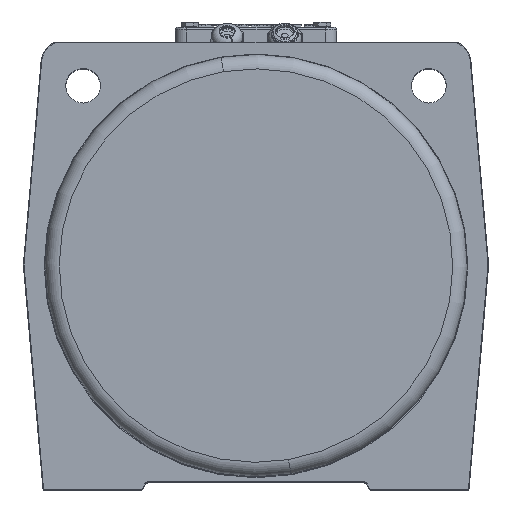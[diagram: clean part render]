
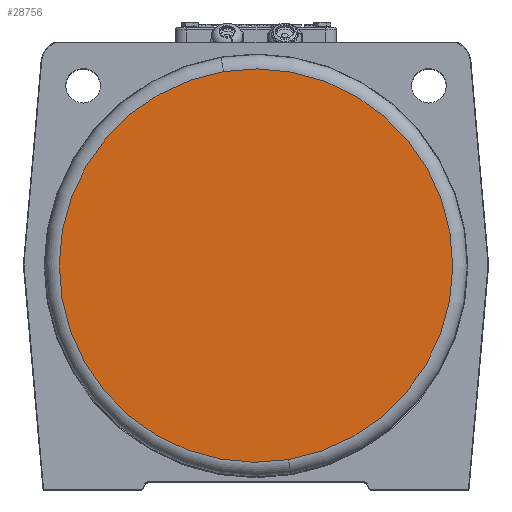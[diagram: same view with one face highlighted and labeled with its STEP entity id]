
A CAD part, top view. The second image highlights one B-rep face of the part: STEP entity #28756.
In plain terms, the highlighted planar face has unit normal (0, 0, 1) as drawn and (1, 0, 0) by its records, which use the part's own axes.
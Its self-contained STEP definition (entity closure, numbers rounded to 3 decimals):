
#1149 = CIRCLE ( 'NONE', #40367, 136.5 ) ;
#5386 = FACE_OUTER_BOUND ( 'NONE', #22586, .T. ) ;
#5985 = DIRECTION ( 'NONE',  ( -1., 0., 0. ) ) ;
#6034 = CARTESIAN_POINT ( 'NONE',  ( 120., 0., 0. ) ) ;
#8628 = DIRECTION ( 'NONE',  ( 0., -1., 0. ) ) ;
#10014 = DIRECTION ( 'NONE',  ( 0., -1., 0. ) ) ;
#14610 = ORIENTED_EDGE ( 'NONE', *, *, #25248, .F. ) ;
#21889 = PLANE ( 'NONE',  #26870 ) ;
#22586 = EDGE_LOOP ( 'NONE', ( #40592, #14610 ) ) ;
#23983 = CARTESIAN_POINT ( 'NONE',  ( 120., 0., 0. ) ) ;
#24189 = VERTEX_POINT ( 'NONE', #40067 ) ;
#25248 = EDGE_CURVE ( 'NONE', #24189, #29860, #1149, .T. ) ;
#25754 = CIRCLE ( 'NONE', #31359, 136.5 ) ;
#26351 = EDGE_CURVE ( 'NONE', #29860, #24189, #25754, .T. ) ;
#26870 = AXIS2_PLACEMENT_3D ( 'NONE', #58584, #31130, #8628 ) ;
#28756 = ADVANCED_FACE ( 'NONE', ( #5386 ), #21889, .F. ) ;
#29860 = VERTEX_POINT ( 'NONE', #49006 ) ;
#31130 = DIRECTION ( 'NONE',  ( -1., 0., 0. ) ) ;
#31359 = AXIS2_PLACEMENT_3D ( 'NONE', #23983, #5985, #37781 ) ;
#37781 = DIRECTION ( 'NONE',  ( 0., -1., 0. ) ) ;
#40067 = CARTESIAN_POINT ( 'NONE',  ( 120., 136.5, 0. ) ) ;
#40367 = AXIS2_PLACEMENT_3D ( 'NONE', #6034, #46349, #10014 ) ;
#40592 = ORIENTED_EDGE ( 'NONE', *, *, #26351, .F. ) ;
#46349 = DIRECTION ( 'NONE',  ( -1., 0., 0. ) ) ;
#49006 = CARTESIAN_POINT ( 'NONE',  ( 120., -136.5, 0. ) ) ;
#58584 = CARTESIAN_POINT ( 'NONE',  ( 120., 136.5, 0. ) ) ;
